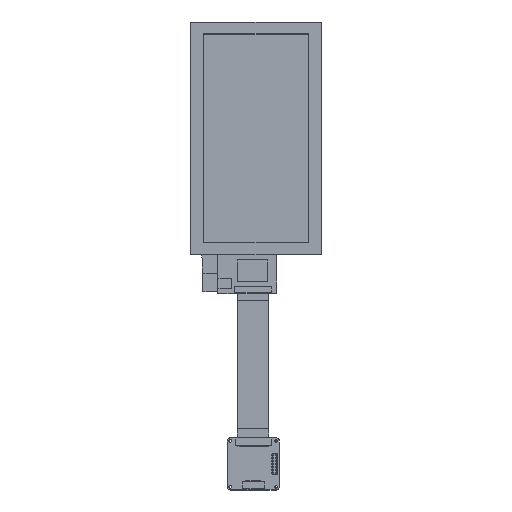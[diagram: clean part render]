
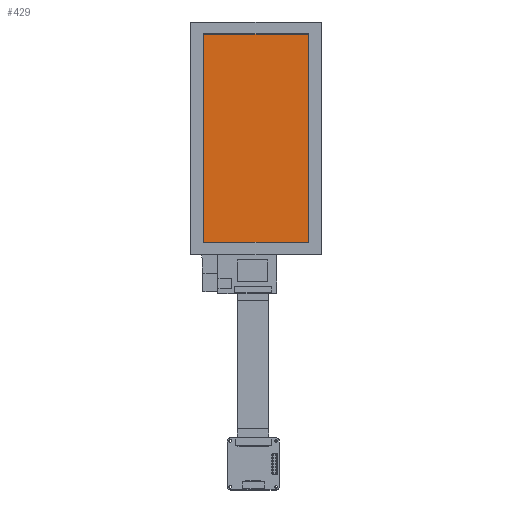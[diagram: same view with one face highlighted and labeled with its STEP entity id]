
A CAD part, top view. The second image highlights one B-rep face of the part: STEP entity #429.
In plain terms, the highlighted planar face has unit normal (0, 0, 1).
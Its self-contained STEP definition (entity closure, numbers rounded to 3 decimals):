
#156=DIRECTION('',(0.,1.,0.));
#157=VECTOR('',#156,136.08);
#158=CARTESIAN_POINT('',(-34.02,7.86,0.7));
#159=LINE('',#158,#157);
#160=DIRECTION('',(-1.,0.,0.));
#161=VECTOR('',#160,68.04);
#162=CARTESIAN_POINT('',(34.02,7.86,0.7));
#163=LINE('',#162,#161);
#164=DIRECTION('',(0.,-1.,0.));
#165=VECTOR('',#164,136.08);
#166=CARTESIAN_POINT('',(34.02,143.94,0.7));
#167=LINE('',#166,#165);
#168=DIRECTION('',(1.,0.,0.));
#169=VECTOR('',#168,68.04);
#170=CARTESIAN_POINT('',(-34.02,143.94,0.7));
#171=LINE('',#170,#169);
#212=CARTESIAN_POINT('',(-34.02,7.86,0.7));
#213=CARTESIAN_POINT('',(-34.02,143.94,0.7));
#214=VERTEX_POINT('',#212);
#215=VERTEX_POINT('',#213);
#216=CARTESIAN_POINT('',(34.02,143.94,0.7));
#217=VERTEX_POINT('',#216);
#218=CARTESIAN_POINT('',(34.02,7.86,0.7));
#219=VERTEX_POINT('',#218);
#418=CARTESIAN_POINT('',(0.,0.,0.7));
#419=DIRECTION('',(0.,0.,1.));
#420=DIRECTION('',(1.,0.,0.));
#421=AXIS2_PLACEMENT_3D('',#418,#419,#420);
#422=PLANE('',#421);
#423=ORIENTED_EDGE('',*,*,#400,.T.);
#424=ORIENTED_EDGE('',*,*,#406,.T.);
#425=ORIENTED_EDGE('',*,*,#404,.T.);
#426=ORIENTED_EDGE('',*,*,#402,.T.);
#427=EDGE_LOOP('',(#423,#424,#425,#426));
#428=FACE_OUTER_BOUND('',#427,.F.);
#400=EDGE_CURVE('',#214,#215,#159,.T.);
#402=EDGE_CURVE('',#219,#214,#163,.T.);
#404=EDGE_CURVE('',#217,#219,#167,.T.);
#406=EDGE_CURVE('',#215,#217,#171,.T.);
#429=ADVANCED_FACE('',(#428),#422,.T.);
